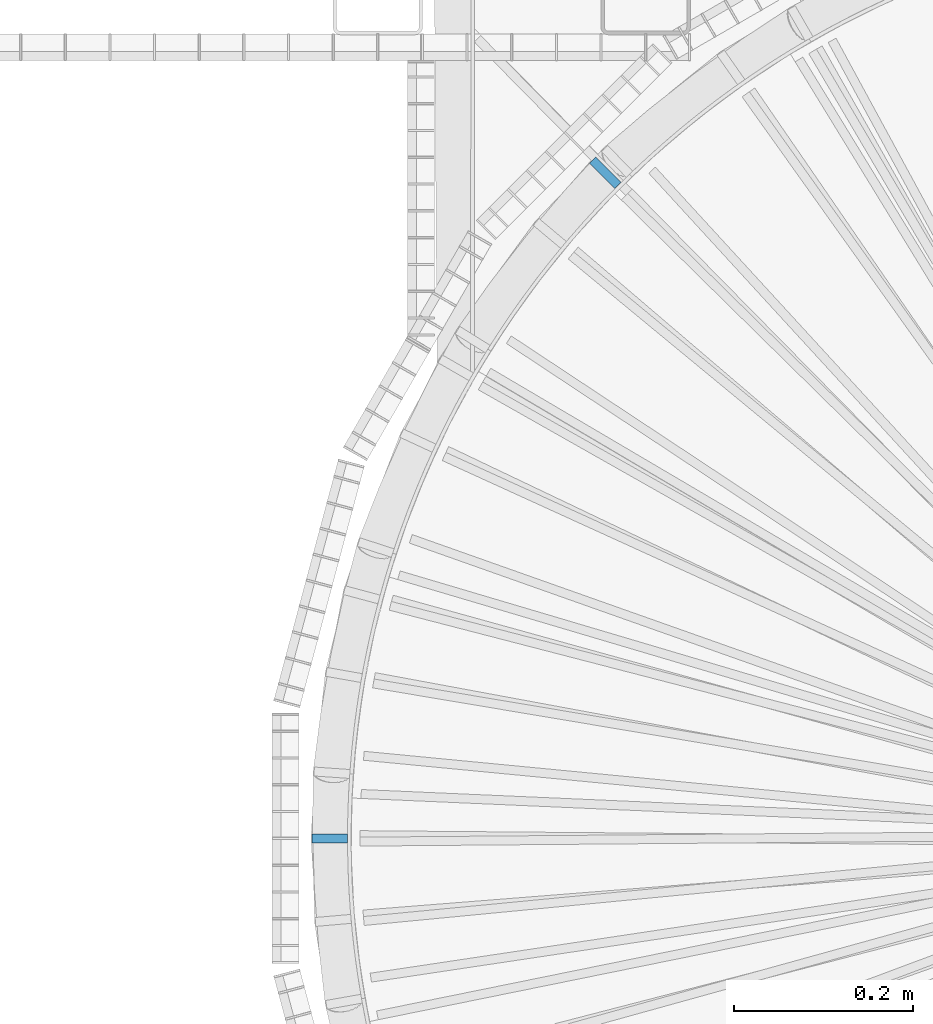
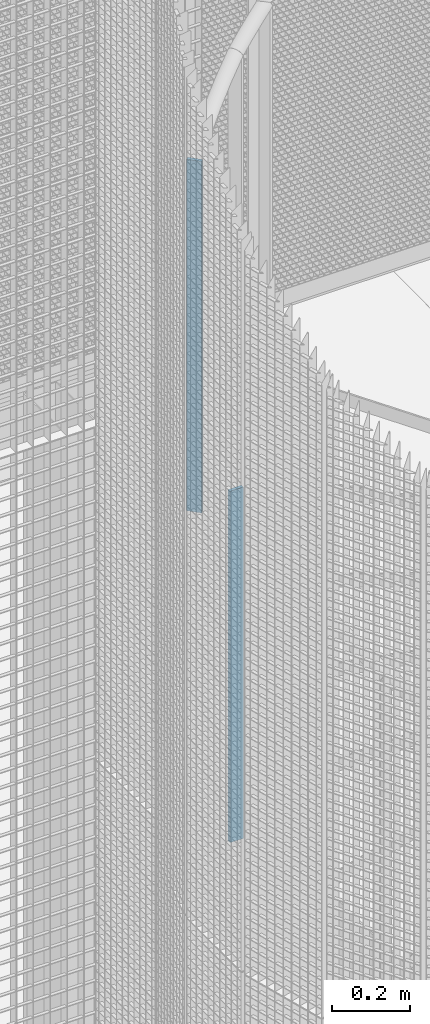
# One storey, part 46 of 1148: 2 columns, 2 elements without a shape of their own.
"""IFC2X3 building model written with IfcOpenShell, lengths in millimetres."""

import ifcopenshell
import ifcopenshell.guid

model = None  # the IFC model being written
_history = None  # IfcOwnerHistory: only IFC2X3 demands one
_inside = {}  # id of a spatial element -> (the spatial element, [elements in it])
_under = {}  # id of a project, library or spatial element -> (it, [spatial elements below it])
_declared = {}  # id of a project -> (the project, [libraries it declares])
_typed = {}  # id of a type object -> (the type object, [elements of that type])
_made_of = {}  # id of a material, layer set ... -> (it, [elements and type objects made of it])


def new_model(schema):
    """Start an empty IFC model of exactly this schema.

    Asked for "IFC4X3", IfcOpenShell would pick the latest addendum, in which some entities
    have other attributes; the version numbers below select the first issue.
    IFC2X3 requires an IfcOwnerHistory on every rooted entity: one is made here for all.
    """
    global model, _history
    if schema == "IFC4X3":
        model = ifcopenshell.file(schema_version=(4, 3, 0, 0))
    else:
        model = ifcopenshell.file(schema=schema)
    _inside.clear()
    _under.clear()
    _declared.clear()
    _typed.clear()
    _made_of.clear()
    _history = None
    if model.schema == "IFC2X3":
        org = make("IfcOrganization", Name="unknown")
        user = make(
            "IfcPersonAndOrganization",
            ThePerson=make("IfcPerson", FamilyName="unknown"),
            TheOrganization=org,
        )
        app = make(
            "IfcApplication",
            ApplicationDeveloper=org,
            Version="unknown",
            ApplicationFullName="unknown",
            ApplicationIdentifier="unknown",
        )
        _history = make(
            "IfcOwnerHistory",
            OwningUser=user,
            OwningApplication=app,
            ChangeAction="ADDED",
            CreationDate=0,
        )
    return model


def make(cls, **values):
    """One entity of the class cls with the attributes given. An attribute that is None is left unset."""
    return model.create_entity(
        cls, **{name: value for name, value in values.items() if value is not None}
    )


def rooted(cls, **values):
    """An entity with a GlobalId (a new one), such as an element, a storey or a relation."""
    return make(cls, GlobalId=ifcopenshell.guid.new(), OwnerHistory=_history, **values)


def si_unit(unit_type, name, prefix=None):
    """IfcSIUnit, for example si_unit("LENGTHUNIT", "METRE", prefix="MILLI")."""
    return make("IfcSIUnit", UnitType=unit_type, Prefix=prefix, Name=name)


def assignment(units):
    """IfcUnitAssignment: the units of a project."""
    return None if units is None else make("IfcUnitAssignment", Units=units)


def point(xyz):
    """IfcCartesianPoint."""
    return None if xyz is None else make("IfcCartesianPoint", Coordinates=xyz)


def direction(xyz):
    """IfcDirection."""
    return None if xyz is None else make("IfcDirection", DirectionRatios=xyz)


def frame(location, z_axis=None, x_axis=None):
    """IfcAxis2Placement3D, a coordinate frame: its origin and axes. An axis left out is left unset."""
    return make(
        "IfcAxis2Placement3D",
        Location=point(location),
        Axis=direction(z_axis),
        RefDirection=direction(x_axis),
    )


def frame_2d(location, x_axis=None):
    """IfcAxis2Placement2D, a coordinate frame in the plane: its origin and x axis."""
    return make(
        "IfcAxis2Placement2D", Location=point(location), RefDirection=direction(x_axis)
    )


def origin_with_axes():
    """The frame at (0, 0, 0) with the z axis (0, 0, 1) and the x axis (1, 0, 0) written out."""
    return frame((0.0, 0.0, 0.0), z_axis=(0.0, 0.0, 1.0), x_axis=(1.0, 0.0, 0.0))


def origin_2d_with_axis():
    """The frame at (0, 0) in the plane with the x axis (1, 0) written out."""
    return frame_2d((0.0, 0.0), x_axis=(1.0, 0.0))


def place(relative_to, where):
    """IfcLocalPlacement: puts the frame where relative to a parent placement (None: the world)."""
    return make(
        "IfcLocalPlacement", PlacementRelTo=relative_to, RelativePlacement=where
    )


def context(
    kind, dimensions, precision=None, world=None, true_north=None, identifier=None
):
    """IfcGeometricRepresentationContext, for example the 3D "Model" context."""
    return make(
        "IfcGeometricRepresentationContext",
        ContextIdentifier=identifier,
        ContextType=kind,
        CoordinateSpaceDimension=dimensions,
        Precision=precision,
        WorldCoordinateSystem=world,
        TrueNorth=true_north,
    )


def subcontext(parent, identifier, kind, view, scale=None):
    """IfcGeometricRepresentationSubContext, for example "Body" below "Model"."""
    return make(
        "IfcGeometricRepresentationSubContext",
        ContextIdentifier=identifier,
        ContextType=kind,
        ParentContext=parent,
        TargetScale=scale,
        TargetView=view,
    )


def project(units=None, contexts=None):
    """IfcProject with its units and contexts."""
    return rooted(
        "IfcProject",
        Name="project",
        RepresentationContexts=contexts,
        UnitsInContext=assignment(units),
    )


def spatial(cls, under=None, at=None, **own):
    """A site, building, storey or space (cls), placed at a placement, below another one or the project."""
    s = rooted(cls, ObjectPlacement=at, **own)
    if under is not None:
        _under.setdefault(under.id(), (under, []))[1].append(s)
    return s


def profile(cls, at=None, kind="AREA", **sizes):
    """A parametric profile (cls). Its sizes go by their IFC names, for example OverallWidth=200.0."""
    return make(cls, ProfileType=kind, Position=at, **sizes)


def rectangle(**sizes):
    """IfcRectangleProfileDef."""
    return profile("IfcRectangleProfileDef", **sizes)


def extrude(swept, where, along, depth):
    """IfcExtrudedAreaSolid: the profile swept, set in the frame where, extruded along a direction by depth."""
    return make(
        "IfcExtrudedAreaSolid",
        SweptArea=swept,
        Position=where,
        ExtrudedDirection=direction(along),
        Depth=depth,
    )


def shape(context_of_items, identifier, shape_type, items):
    """IfcShapeRepresentation: the items that make up one representation, for example the "Body"."""
    return make(
        "IfcShapeRepresentation",
        ContextOfItems=context_of_items,
        RepresentationIdentifier=identifier,
        RepresentationType=shape_type,
        Items=items,
    )


def material(Name=None, Category=None):
    """IfcMaterial."""
    return make("IfcMaterial", Name=Name, Category=Category)


def made_of(thing, what):
    """Note that an element or type object is made of a material, layer set ...; save() writes the relation."""
    if what is not None:
        _made_of.setdefault(what.id(), (what, []))[1].append(thing)
    return thing


def type_object(cls, material=None, **own):
    """A type object (cls), such as IfcWallType, which elements share."""
    return made_of(rooted(cls, **own), material)


def element(
    cls,
    number,
    at=None,
    inside=None,
    cuts=None,
    type_object=None,
    material=None,
    context=None,
    identifier="Body",
    shape_type=None,
    held_by="IfcProductDefinitionShape",
    body=None,
    shapes=None,
    **own,
):
    """One element of the class cls, such as IfcWall. Its Tag is "e" and its number.

    at: its placement. inside: the storey or other place that contains it. cuts: it is an
    opening in that element (IfcRelVoidsElement). A single representation is given by context,
    identifier, shape_type and body (its items); several are given by shapes. held_by: the class
    of the entity that holds the representations. save() writes the other relations.
    """
    e = rooted(cls, Tag="e%d" % number, ObjectPlacement=at, **own)
    if body is not None:
        shapes = [shape(context, identifier, shape_type, body)]
    if shapes is not None:
        e.Representation = make(held_by, Representations=shapes)
    if inside is not None:
        _inside.setdefault(inside.id(), (inside, []))[1].append(e)
    if cuts is not None:
        rooted(
            "IfcRelVoidsElement", RelatingBuildingElement=cuts, RelatedOpeningElement=e
        )
    if type_object is not None:
        _typed.setdefault(type_object.id(), (type_object, []))[1].append(e)
    return made_of(e, material)


def aggregate(whole, parts):
    """IfcRelAggregates: a whole, such as a stair, and the parts it consists of."""
    return rooted("IfcRelAggregates", RelatingObject=whole, RelatedObjects=parts)


def save(model, path):
    """Write the relations noted so far, then the file.

    IfcRelAggregates (storeys below a building ...), IfcRelContainedInSpatialStructure (elements
    in a storey), IfcRelDefinesByType, IfcRelAssociatesMaterial and IfcRelDeclares: one each for
    every whole, place, type object, material and project.
    """
    for whole, parts in _under.values():
        aggregate(whole, parts)
    for where, things in _inside.values():
        rooted(
            "IfcRelContainedInSpatialStructure",
            RelatedElements=things,
            RelatingStructure=where,
        )
    for kind, things in _typed.values():
        rooted("IfcRelDefinesByType", RelatedObjects=things, RelatingType=kind)
    for what, things in _made_of.values():
        rooted("IfcRelAssociatesMaterial", RelatedObjects=things, RelatingMaterial=what)
    for by, libraries in _declared.values():
        rooted("IfcRelDeclares", RelatingContext=by, RelatedDefinitions=libraries)
    model.write(path)


model = new_model("IFC2X3")

# Units and contexts
model_context = context("Model", 3, precision=1e-05, world=origin_with_axes())
body_context = subcontext(model_context, "Body", "Model", "MODEL_VIEW")
ifc_project = project(units=[si_unit("LENGTHUNIT", "METRE", prefix="MILLI"), si_unit("AREAUNIT", "SQUARE_METRE"), si_unit("VOLUMEUNIT", "CUBIC_METRE"), si_unit("MASSUNIT", "GRAM", prefix="KILO"), si_unit("TIMEUNIT", "SECOND"), si_unit("PLANEANGLEUNIT", "RADIAN"), si_unit("SOLIDANGLEUNIT", "STERADIAN"), si_unit("THERMODYNAMICTEMPERATUREUNIT", "DEGREE_CELSIUS"), si_unit("LUMINOUSINTENSITYUNIT", "LUMEN")], contexts=[model_context])

# Site, building, storey
site_placement = place(None, origin_with_axes())
site = spatial("IfcSite", under=ifc_project, at=site_placement, Name="Undefined", CompositionType="ELEMENT")
building_placement = place(site_placement, origin_with_axes())
building = spatial("IfcBuilding", under=site, at=building_placement, Name="Undefined", CompositionType="ELEMENT")
storey_placement = place(building_placement, origin_with_axes())
storey = spatial("IfcBuildingStorey", under=building, at=storey_placement, Name="Undefined", CompositionType="ELEMENT", Elevation=0.0)

# Assembly, column
assembly_1_placement = place(storey_placement, origin_with_axes())
assembly_1 = element("IfcElementAssembly", 1, at=assembly_1_placement, inside=storey, Name="MONTANT", AssemblyPlace="NOTDEFINED", PredefinedType="NOTDEFINED")
ifc_material = material(Name="STEEL/S235JR")
column_type = type_object("IfcColumnType", Name="PL10*40", PredefinedType="NOTDEFINED")
column_1_placement = place(assembly_1_placement, frame((20546.0000000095, -3.41060513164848e-13, 9307.36000000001), z_axis=(0.0, 0.0, 1.0), x_axis=(1.0, 0.0, 0.0)))
column_1 = element("IfcColumn", 2, at=column_1_placement, type_object=column_type, material=ifc_material, Name="MONTANT", context=body_context, shape_type="SweptSolid", body=[
    extrude(rectangle(XDim=10.0, YDim=40.0, at=origin_2d_with_axis()), frame((0.0, 0.0, 1100.0), z_axis=(0.0, 0.0, -1.0), x_axis=(0.0, 1.0, 0.0)), (0.0, 0.0, 1.0), 1100.0),
])
aggregate(assembly_1, [column_1])

assembly_2_placement = place(storey_placement, origin_with_axes())
assembly_2 = element("IfcElementAssembly", 3, at=assembly_2_placement, inside=storey, Name="MONTANT", AssemblyPlace="NOTDEFINED", PredefinedType="NOTDEFINED")
column_2_placement = place(assembly_2_placement, frame((20854.7094526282, 745.290547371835, 9776.92000000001), z_axis=(0.0, 0.0, 1.0), x_axis=(0.707106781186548, -0.707106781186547, 0.0)))
column_2 = element("IfcColumn", 4, at=column_2_placement, type_object=column_type, material=ifc_material, Name="MONTANT", context=body_context, shape_type="SweptSolid", body=[
    extrude(rectangle(XDim=10.0, YDim=40.0, at=origin_2d_with_axis()), frame((0.0, 0.0, 1100.0), z_axis=(0.0, 0.0, -1.0), x_axis=(0.0, 1.0, 0.0)), (0.0, 0.0, 1.0), 1100.0),
])
aggregate(assembly_2, [column_2])

save(model, "model.ifc")
